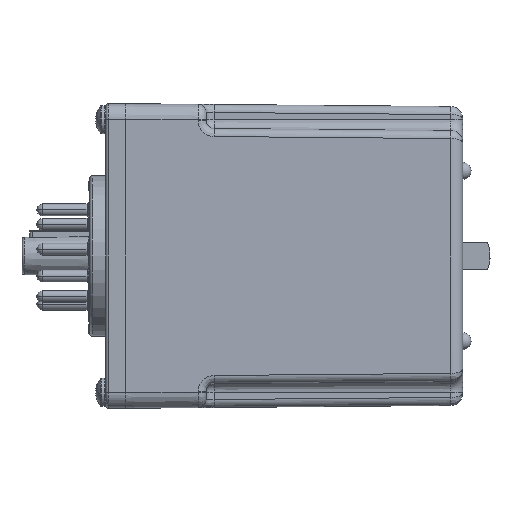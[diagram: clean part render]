
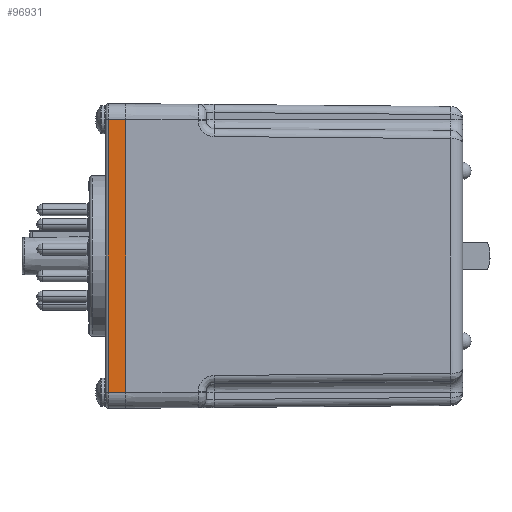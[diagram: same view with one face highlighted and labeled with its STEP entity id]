
A CAD part, left-side view. The second image highlights one B-rep face of the part: STEP entity #96931.
In plain terms, the highlighted planar face has unit normal (-1, 0, 0).
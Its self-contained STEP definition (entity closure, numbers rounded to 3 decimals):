
#75241 = CYLINDRICAL_SURFACE('',#75242,0.508);
#75242 = AXIS2_PLACEMENT_3D('',#75243,#75244,#75245);
#75243 = CARTESIAN_POINT('',(-21.717,1.473,30.163));
#75244 = DIRECTION('',(0.,0.,-1.));
#75245 = DIRECTION('',(-1.,0.,0.));
#75706 = PLANE('',#75707);
#75707 = AXIS2_PLACEMENT_3D('',#75708,#75709,#75710);
#75708 = CARTESIAN_POINT('',(22.225,-1.981,30.163));
#75709 = DIRECTION('',(0.,1.,0.));
#75710 = DIRECTION('',(-1.,0.,0.));
#82073 = VERTEX_POINT('',#82074);
#82074 = CARTESIAN_POINT('',(-22.225,-1.981,26.988));
#82093 = CYLINDRICAL_SURFACE('',#82094,3.175);
#82094 = AXIS2_PLACEMENT_3D('',#82095,#82096,#82097);
#82095 = CARTESIAN_POINT('',(-19.05,1.981,26.988));
#82096 = DIRECTION('',(0.,1.,0.));
#82097 = DIRECTION('',(0.,0.,1.));
#82105 = EDGE_CURVE('',#82073,#82106,#82108,.T.);
#82106 = VERTEX_POINT('',#82107);
#82107 = CARTESIAN_POINT('',(-22.225,-1.981,-26.988));
#82108 = SURFACE_CURVE('',#82109,(#82113,#82120),.PCURVE_S1.);
#82109 = LINE('',#82110,#82111);
#82110 = CARTESIAN_POINT('',(-22.225,-1.981,30.163));
#82111 = VECTOR('',#82112,1.);
#82112 = DIRECTION('',(-0.,-0.,-1.));
#82113 = PCURVE('',#75706,#82114);
#82114 = DEFINITIONAL_REPRESENTATION('',(#82115),#82119);
#82115 = LINE('',#82116,#82117);
#82116 = CARTESIAN_POINT('',(44.45,0.));
#82117 = VECTOR('',#82118,1.);
#82118 = DIRECTION('',(0.,-1.));
#82119 = ( GEOMETRIC_REPRESENTATION_CONTEXT(2) 
PARAMETRIC_REPRESENTATION_CONTEXT() REPRESENTATION_CONTEXT('2D SPACE',''
  ) );
#82120 = PCURVE('',#82121,#82126);
#82121 = PLANE('',#82122);
#82122 = AXIS2_PLACEMENT_3D('',#82123,#82124,#82125);
#82123 = CARTESIAN_POINT('',(-22.225,-1.981,30.163));
#82124 = DIRECTION('',(1.,0.,0.));
#82125 = DIRECTION('',(0.,0.,-1.));
#82126 = DEFINITIONAL_REPRESENTATION('',(#82127),#82131);
#82127 = LINE('',#82128,#82129);
#82128 = CARTESIAN_POINT('',(0.,0.));
#82129 = VECTOR('',#82130,1.);
#82130 = DIRECTION('',(1.,0.));
#82131 = ( GEOMETRIC_REPRESENTATION_CONTEXT(2) 
PARAMETRIC_REPRESENTATION_CONTEXT() REPRESENTATION_CONTEXT('2D SPACE',''
  ) );
#82154 = CYLINDRICAL_SURFACE('',#82155,3.175);
#82155 = AXIS2_PLACEMENT_3D('',#82156,#82157,#82158);
#82156 = CARTESIAN_POINT('',(-19.05,-1.981,-26.988));
#82157 = DIRECTION('',(0.,-1.,0.));
#82158 = DIRECTION('',(0.,0.,-1.));
#96931 = ADVANCED_FACE('',(#96932),#82121,.F.);
#96932 = FACE_BOUND('',#96933,.T.);
#96933 = EDGE_LOOP('',(#96934,#96957,#96980,#97001));
#96934 = ORIENTED_EDGE('',*,*,#96935,.T.);
#96935 = EDGE_CURVE('',#82073,#96936,#96938,.T.);
#96936 = VERTEX_POINT('',#96937);
#96937 = CARTESIAN_POINT('',(-22.225,1.473,26.988));
#96938 = SURFACE_CURVE('',#96939,(#96943,#96950),.PCURVE_S1.);
#96939 = LINE('',#96940,#96941);
#96940 = CARTESIAN_POINT('',(-22.225,1.981,26.988));
#96941 = VECTOR('',#96942,1.);
#96942 = DIRECTION('',(0.,1.,0.));
#96943 = PCURVE('',#82121,#96944);
#96944 = DEFINITIONAL_REPRESENTATION('',(#96945),#96949);
#96945 = LINE('',#96946,#96947);
#96946 = CARTESIAN_POINT('',(3.175,3.962));
#96947 = VECTOR('',#96948,1.);
#96948 = DIRECTION('',(0.,1.));
#96949 = ( GEOMETRIC_REPRESENTATION_CONTEXT(2) 
PARAMETRIC_REPRESENTATION_CONTEXT() REPRESENTATION_CONTEXT('2D SPACE',''
  ) );
#96950 = PCURVE('',#82093,#96951);
#96951 = DEFINITIONAL_REPRESENTATION('',(#96952),#96956);
#96952 = LINE('',#96953,#96954);
#96953 = CARTESIAN_POINT('',(4.712,0.));
#96954 = VECTOR('',#96955,1.);
#96955 = DIRECTION('',(0.,1.));
#96956 = ( GEOMETRIC_REPRESENTATION_CONTEXT(2) 
PARAMETRIC_REPRESENTATION_CONTEXT() REPRESENTATION_CONTEXT('2D SPACE',''
  ) );
#96957 = ORIENTED_EDGE('',*,*,#96958,.T.);
#96958 = EDGE_CURVE('',#96936,#96959,#96961,.T.);
#96959 = VERTEX_POINT('',#96960);
#96960 = CARTESIAN_POINT('',(-22.225,1.473,-26.988));
#96961 = SURFACE_CURVE('',#96962,(#96966,#96973),.PCURVE_S1.);
#96962 = LINE('',#96963,#96964);
#96963 = CARTESIAN_POINT('',(-22.225,1.473,30.163));
#96964 = VECTOR('',#96965,1.);
#96965 = DIRECTION('',(0.,0.,-1.));
#96966 = PCURVE('',#82121,#96967);
#96967 = DEFINITIONAL_REPRESENTATION('',(#96968),#96972);
#96968 = LINE('',#96969,#96970);
#96969 = CARTESIAN_POINT('',(0.,3.454));
#96970 = VECTOR('',#96971,1.);
#96971 = DIRECTION('',(1.,0.));
#96972 = ( GEOMETRIC_REPRESENTATION_CONTEXT(2) 
PARAMETRIC_REPRESENTATION_CONTEXT() REPRESENTATION_CONTEXT('2D SPACE',''
  ) );
#96973 = PCURVE('',#75241,#96974);
#96974 = DEFINITIONAL_REPRESENTATION('',(#96975),#96979);
#96975 = LINE('',#96976,#96977);
#96976 = CARTESIAN_POINT('',(0.,0.));
#96977 = VECTOR('',#96978,1.);
#96978 = DIRECTION('',(0.,1.));
#96979 = ( GEOMETRIC_REPRESENTATION_CONTEXT(2) 
PARAMETRIC_REPRESENTATION_CONTEXT() REPRESENTATION_CONTEXT('2D SPACE',''
  ) );
#96980 = ORIENTED_EDGE('',*,*,#96981,.T.);
#96981 = EDGE_CURVE('',#96959,#82106,#96982,.T.);
#96982 = SURFACE_CURVE('',#96983,(#96987,#96994),.PCURVE_S1.);
#96983 = LINE('',#96984,#96985);
#96984 = CARTESIAN_POINT('',(-22.225,-1.981,-26.988));
#96985 = VECTOR('',#96986,1.);
#96986 = DIRECTION('',(0.,-1.,0.));
#96987 = PCURVE('',#82121,#96988);
#96988 = DEFINITIONAL_REPRESENTATION('',(#96989),#96993);
#96989 = LINE('',#96990,#96991);
#96990 = CARTESIAN_POINT('',(57.15,0.));
#96991 = VECTOR('',#96992,1.);
#96992 = DIRECTION('',(0.,-1.));
#96993 = ( GEOMETRIC_REPRESENTATION_CONTEXT(2) 
PARAMETRIC_REPRESENTATION_CONTEXT() REPRESENTATION_CONTEXT('2D SPACE',''
  ) );
#96994 = PCURVE('',#82154,#96995);
#96995 = DEFINITIONAL_REPRESENTATION('',(#96996),#97000);
#96996 = LINE('',#96997,#96998);
#96997 = CARTESIAN_POINT('',(4.712,0.));
#96998 = VECTOR('',#96999,1.);
#96999 = DIRECTION('',(0.,1.));
#97000 = ( GEOMETRIC_REPRESENTATION_CONTEXT(2) 
PARAMETRIC_REPRESENTATION_CONTEXT() REPRESENTATION_CONTEXT('2D SPACE',''
  ) );
#97001 = ORIENTED_EDGE('',*,*,#82105,.F.);
